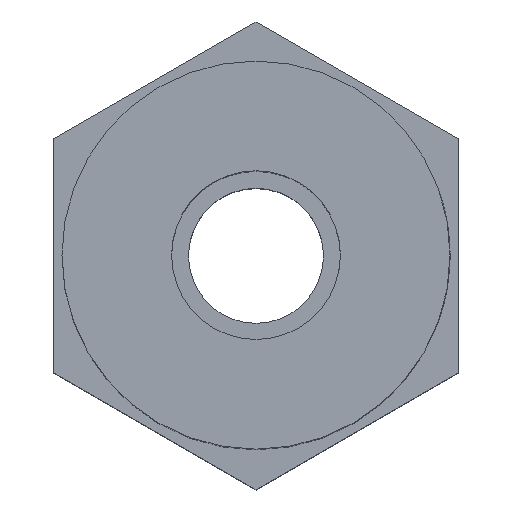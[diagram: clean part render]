
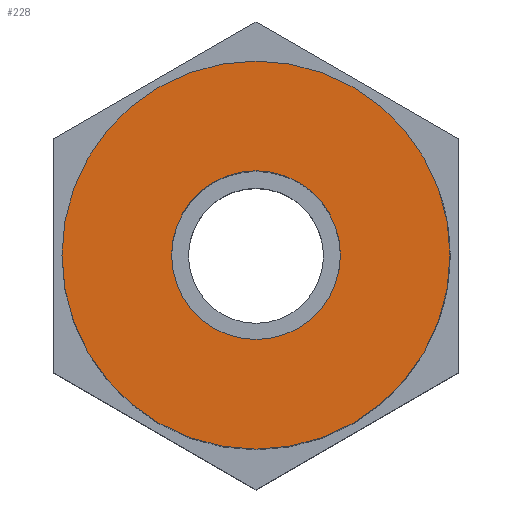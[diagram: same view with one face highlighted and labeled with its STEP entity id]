
A CAD part, top view. The second image highlights one B-rep face of the part: STEP entity #228.
In plain terms, the highlighted planar face has unit normal (0, 0, 1).
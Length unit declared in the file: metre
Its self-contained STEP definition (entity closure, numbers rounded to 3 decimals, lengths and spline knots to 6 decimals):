
#49=PLANE('',#260);
#60=CIRCLE('',#256,0.0025);
#62=CIRCLE('',#259,0.00575);
#72=ORIENTED_EDGE('',*,*,#122,.F.);
#73=ORIENTED_EDGE('',*,*,#125,.T.);
#122=EDGE_CURVE('',#149,#149,#60,.T.);
#125=EDGE_CURVE('',#152,#152,#62,.T.);
#149=VERTEX_POINT('',#361);
#152=VERTEX_POINT('',#378);
#176=EDGE_LOOP('',(#72));
#177=EDGE_LOOP('',(#73));
#202=FACE_BOUND('',#176,.T.);
#203=FACE_BOUND('',#177,.T.);
#228=ADVANCED_FACE('',(#202,#203),#49,.T.);
#256=AXIS2_PLACEMENT_3D('',#360,#282,#283);
#259=AXIS2_PLACEMENT_3D('',#377,#288,#289);
#260=AXIS2_PLACEMENT_3D('',#379,#290,#291);
#282=DIRECTION('',(0.,0.,1.));
#283=DIRECTION('',(1.,0.,0.));
#288=DIRECTION('',(0.,0.,1.));
#289=DIRECTION('',(1.,0.,0.));
#290=DIRECTION('',(0.,0.,1.));
#291=DIRECTION('',(1.,0.,0.));
#360=CARTESIAN_POINT('',(0.,0.,0.018));
#361=CARTESIAN_POINT('',(0.0025,0.,0.018));
#377=CARTESIAN_POINT('',(0.,0.,0.018));
#378=CARTESIAN_POINT('',(0.00575,0.,0.018));
#379=CARTESIAN_POINT('',(0.,0.,0.018));
